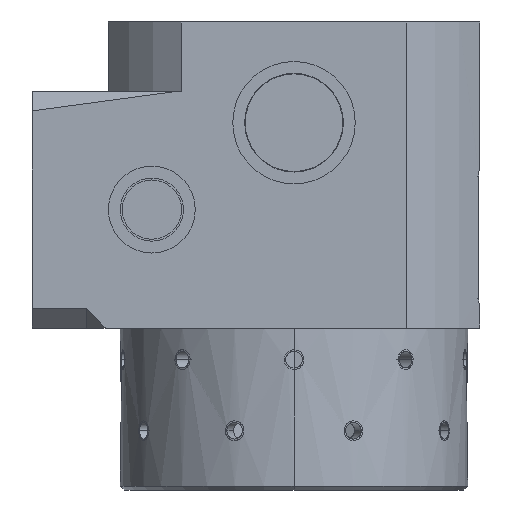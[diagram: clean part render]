
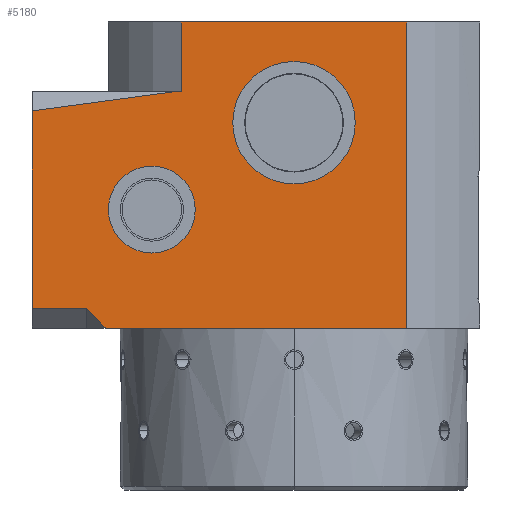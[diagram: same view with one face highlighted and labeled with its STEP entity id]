
A CAD part, left-side view. The second image highlights one B-rep face of the part: STEP entity #5180.
In plain terms, the highlighted planar face has unit normal (-1, 0, 0).
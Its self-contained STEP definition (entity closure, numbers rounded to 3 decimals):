
#374=DIRECTION('',(0.,-1.,0.));
#375=VECTOR('',#374,57.131);
#376=CARTESIAN_POINT('',(-47.,28.566,89.7));
#377=LINE('',#376,#375);
#622=CARTESIAN_POINT('',(-47.,0.,64.2));
#623=DIRECTION('',(-1.,0.,0.));
#624=DIRECTION('',(0.,0.,-1.));
#625=AXIS2_PLACEMENT_3D('',#622,#623,#624);
#627=CARTESIAN_POINT('',(-47.,0.,64.2));
#628=DIRECTION('',(-1.,0.,0.));
#629=DIRECTION('',(0.,0.,1.));
#630=AXIS2_PLACEMENT_3D('',#627,#628,#629);
#632=DIRECTION('',(0.,-0.991,0.134));
#633=VECTOR('',#632,37.336);
#634=CARTESIAN_POINT('',(-47.,66.25,67.2));
#635=LINE('',#634,#633);
#636=DIRECTION('',(0.,0.,1.));
#637=VECTOR('',#636,17.5);
#638=CARTESIAN_POINT('',(-47.,28.566,72.2));
#639=LINE('',#638,#637);
#640=DIRECTION('',(0.,0.,1.));
#641=VECTOR('',#640,77.5);
#642=CARTESIAN_POINT('',(-47.,-28.566,12.2));
#643=LINE('',#642,#641);
#644=DIRECTION('',(0.,1.,0.));
#645=VECTOR('',#644,76.166);
#646=CARTESIAN_POINT('',(-47.,-28.566,12.2));
#647=LINE('',#646,#645);
#648=DIRECTION('',(0.,-0.707,-0.707));
#649=VECTOR('',#648,6.93);
#650=CARTESIAN_POINT('',(-47.,52.5,17.1));
#651=LINE('',#650,#649);
#652=DIRECTION('',(0.,0.,-1.));
#653=VECTOR('',#652,0.1);
#654=CARTESIAN_POINT('',(-47.,52.5,17.2));
#655=LINE('',#654,#653);
#656=DIRECTION('',(0.,1.,0.));
#657=VECTOR('',#656,13.75);
#658=CARTESIAN_POINT('',(-47.,52.5,17.2));
#659=LINE('',#658,#657);
#660=DIRECTION('',(0.,0.,1.));
#661=VECTOR('',#660,50.);
#662=CARTESIAN_POINT('',(-47.,66.25,17.2));
#663=LINE('',#662,#661);
#664=CARTESIAN_POINT('',(-47.,36.,42.2));
#665=DIRECTION('',(-1.,0.,0.));
#666=DIRECTION('',(0.,1.,0.));
#667=AXIS2_PLACEMENT_3D('',#664,#665,#666);
#669=CARTESIAN_POINT('',(-47.,36.,42.2));
#670=DIRECTION('',(-1.,0.,0.));
#671=DIRECTION('',(0.,-1.,0.));
#672=AXIS2_PLACEMENT_3D('',#669,#670,#671);
#798=DIRECTION('',(0.,1.,0.));
#799=VECTOR('',#798,0.684);
#800=CARTESIAN_POINT('',(-47.,28.566,72.2));
#801=LINE('',#800,#799);
#3659=CARTESIAN_POINT('',(-47.,52.5,17.2));
#3661=VERTEX_POINT('',#3659);
#3727=CARTESIAN_POINT('',(-47.,66.25,17.2));
#3728=VERTEX_POINT('',#3727);
#3755=CARTESIAN_POINT('',(-47.,0.,48.7));
#3756=CARTESIAN_POINT('',(-47.,0.,79.7));
#3757=VERTEX_POINT('',#3755);
#3758=VERTEX_POINT('',#3756);
#3775=CARTESIAN_POINT('',(-47.,-28.566,89.7));
#3777=VERTEX_POINT('',#3775);
#3783=CARTESIAN_POINT('',(-47.,-28.566,12.2));
#3784=VERTEX_POINT('',#3783);
#3791=CARTESIAN_POINT('',(-47.,52.5,17.1));
#3792=CARTESIAN_POINT('',(-47.,47.6,12.2));
#3793=VERTEX_POINT('',#3791);
#3794=VERTEX_POINT('',#3792);
#3808=CARTESIAN_POINT('',(-47.,28.566,89.7));
#3810=VERTEX_POINT('',#3808);
#3811=CARTESIAN_POINT('',(-47.,28.566,72.2));
#3812=VERTEX_POINT('',#3811);
#4056=CARTESIAN_POINT('',(-47.,66.25,67.2));
#4057=CARTESIAN_POINT('',(-47.,29.25,72.2));
#4058=VERTEX_POINT('',#4056);
#4059=VERTEX_POINT('',#4057);
#4136=CARTESIAN_POINT('',(-47.,47.,42.2));
#4137=CARTESIAN_POINT('',(-47.,25.,42.2));
#4138=VERTEX_POINT('',#4136);
#4139=VERTEX_POINT('',#4137);
#5144=CARTESIAN_POINT('',(-47.,47.,89.7));
#5145=DIRECTION('',(-1.,0.,0.));
#5146=DIRECTION('',(0.,-1.,0.));
#5147=AXIS2_PLACEMENT_3D('',#5144,#5145,#5146);
#5148=PLANE('',#5147);
#5150=ORIENTED_EDGE('',*,*,#5149,.T.);
#5152=ORIENTED_EDGE('',*,*,#5151,.F.);
#5154=ORIENTED_EDGE('',*,*,#5153,.T.);
#5155=ORIENTED_EDGE('',*,*,#4673,.T.);
#5157=ORIENTED_EDGE('',*,*,#5156,.F.);
#5159=ORIENTED_EDGE('',*,*,#5158,.T.);
#5161=ORIENTED_EDGE('',*,*,#5160,.F.);
#5163=ORIENTED_EDGE('',*,*,#5162,.F.);
#5165=ORIENTED_EDGE('',*,*,#5164,.T.);
#5166=ORIENTED_EDGE('',*,*,#4384,.T.);
#5167=EDGE_LOOP('',(#5150,#5152,#5154,#5155,#5157,#5159,#5161,#5163,#5165,
#5166));
#5168=FACE_OUTER_BOUND('',#5167,.F.);
#5170=ORIENTED_EDGE('',*,*,#5169,.T.);
#5172=ORIENTED_EDGE('',*,*,#5171,.T.);
#5173=EDGE_LOOP('',(#5170,#5172));
#5174=FACE_BOUND('',#5173,.F.);
#5175=ORIENTED_EDGE('',*,*,#5134,.T.);
#5177=ORIENTED_EDGE('',*,*,#5176,.T.);
#5178=EDGE_LOOP('',(#5175,#5177));
#5179=FACE_BOUND('',#5178,.F.);
#5180=ADVANCED_FACE('',(#5168,#5174,#5179),#5148,.T.);
#626=CIRCLE('',#625,15.5);
#631=CIRCLE('',#630,15.5);
#668=CIRCLE('',#667,11.);
#673=CIRCLE('',#672,11.);
#4384=EDGE_CURVE('',#3728,#4058,#663,.T.);
#4673=EDGE_CURVE('',#3810,#3777,#377,.T.);
#5134=EDGE_CURVE('',#4138,#4139,#668,.T.);
#5149=EDGE_CURVE('',#4058,#4059,#635,.T.);
#5151=EDGE_CURVE('',#3812,#4059,#801,.T.);
#5153=EDGE_CURVE('',#3812,#3810,#639,.T.);
#5156=EDGE_CURVE('',#3784,#3777,#643,.T.);
#5158=EDGE_CURVE('',#3784,#3794,#647,.T.);
#5160=EDGE_CURVE('',#3793,#3794,#651,.T.);
#5162=EDGE_CURVE('',#3661,#3793,#655,.T.);
#5164=EDGE_CURVE('',#3661,#3728,#659,.T.);
#5169=EDGE_CURVE('',#3757,#3758,#626,.T.);
#5171=EDGE_CURVE('',#3758,#3757,#631,.T.);
#5176=EDGE_CURVE('',#4139,#4138,#673,.T.);
